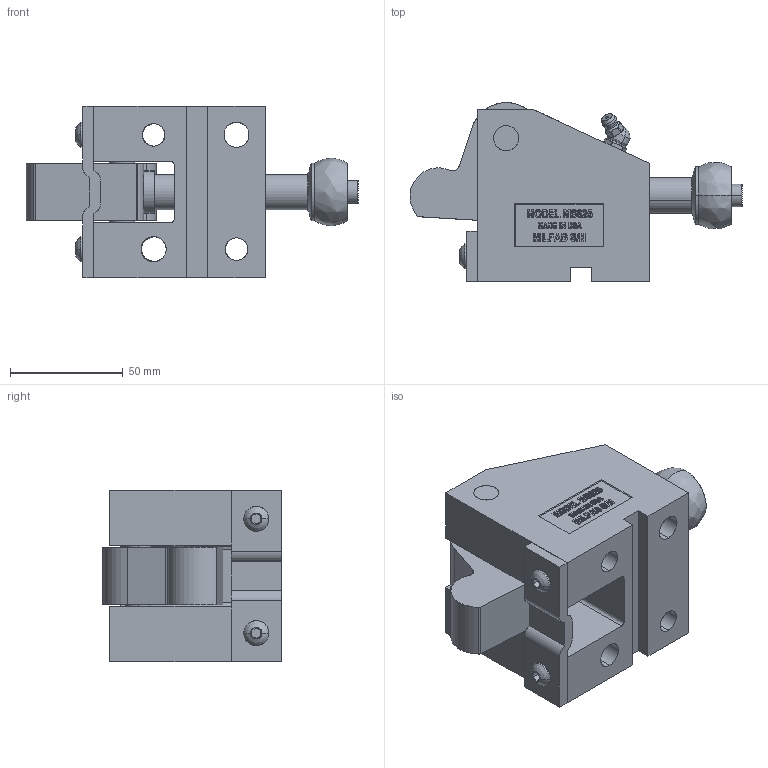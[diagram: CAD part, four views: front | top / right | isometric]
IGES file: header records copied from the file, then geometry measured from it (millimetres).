
Start section: SolidWorks IGES file using analytic representation for surfaces
Global section: file name: Y:\3\MS62545\CLOSED\MS62545-C.IGS; native system: SolidWorks 2006 by SolidWorks Corporation; preprocessor: SolidWorks 2006 by SolidWorks Corporation; author: Jim; date: 090126.151944; units: inch
Bounding box: 147.5 x 79.37 x 76.2 mm (x, y, z)
Surface area: 76621.2 mm2 (no closed solid volume)
Topology: 0 solids, 0 shells, 597 faces, 7499 edges, 7497 vertices
Faces by surface type: bspline 469, revolution 128
